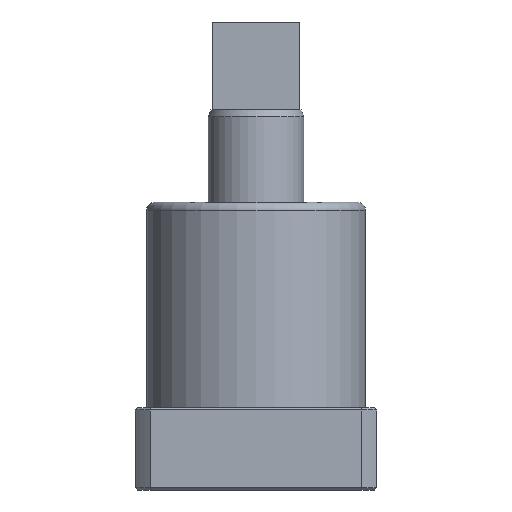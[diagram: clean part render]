
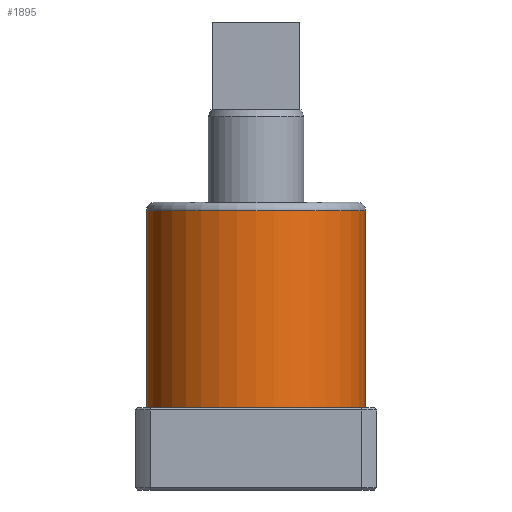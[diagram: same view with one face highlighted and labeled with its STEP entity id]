
A CAD part, left-side view. The second image highlights one B-rep face of the part: STEP entity #1895.
In plain terms, the highlighted cylindrical face has radius 40 mm (diameter 80 mm), a full revolution.
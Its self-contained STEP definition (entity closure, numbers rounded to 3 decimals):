
#73=CYLINDRICAL_SURFACE('',#2113,40.);
#485=ORIENTED_EDGE('',*,*,#932,.T.);
#486=ORIENTED_EDGE('',*,*,#931,.F.);
#931=EDGE_CURVE('',#1163,#1163,#1321,.F.);
#932=EDGE_CURVE('',#1164,#1164,#1322,.F.);
#1163=VERTEX_POINT('',#3019);
#1164=VERTEX_POINT('',#3022);
#1321=CIRCLE('',#2112,40.);
#1322=CIRCLE('',#2114,40.);
#1447=EDGE_LOOP('',(#485));
#1448=EDGE_LOOP('',(#486));
#1651=FACE_BOUND('',#1447,.T.);
#1652=FACE_BOUND('',#1448,.T.);
#1895=ADVANCED_FACE('',(#1651,#1652),#73,.T.);
#2112=AXIS2_PLACEMENT_3D('',#3018,#2431,#2432);
#2113=AXIS2_PLACEMENT_3D('',#3020,#2433,#2434);
#2114=AXIS2_PLACEMENT_3D('',#3021,#2435,#2436);
#2431=DIRECTION('',(0.,0.,1.));
#2432=DIRECTION('',(0.,-1.,0.));
#2433=DIRECTION('',(0.,0.,-1.));
#2434=DIRECTION('',(0.,1.,0.));
#2435=DIRECTION('',(0.,0.,1.));
#2436=DIRECTION('',(0.,-1.,0.));
#3018=CARTESIAN_POINT('',(0.,46.,-55.4));
#3019=CARTESIAN_POINT('',(0.,6.,-55.4));
#3020=CARTESIAN_POINT('',(0.,46.,19.6));
#3021=CARTESIAN_POINT('',(0.,46.,16.6));
#3022=CARTESIAN_POINT('',(0.,6.,16.6));
